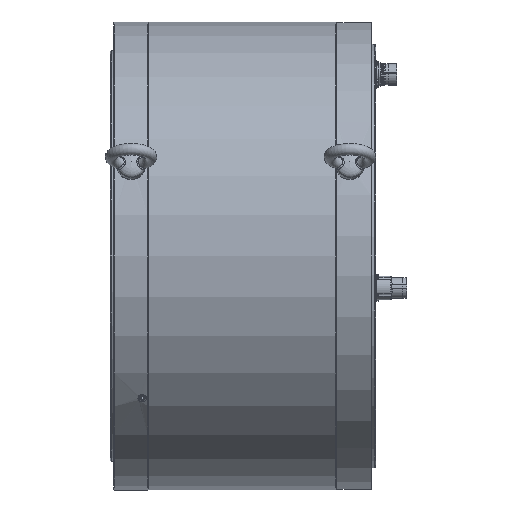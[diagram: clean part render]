
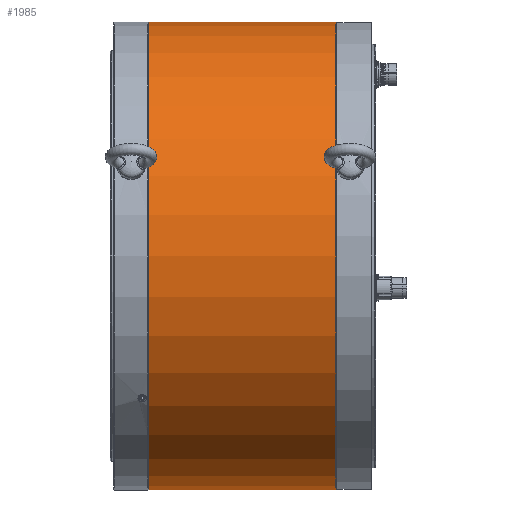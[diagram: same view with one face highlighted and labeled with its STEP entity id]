
A CAD part, front view. The second image highlights one B-rep face of the part: STEP entity #1985.
In plain terms, the highlighted cylindrical face has radius 245 mm (diameter 490 mm), a full revolution.
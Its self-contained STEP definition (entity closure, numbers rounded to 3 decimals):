
#1985 = ADVANCED_FACE( '', ( #4222, #4223 ), #4224, .T. );
#4222 = FACE_OUTER_BOUND( '', #7408, .T. );
#4223 = FACE_OUTER_BOUND( '', #7409, .T. );
#4224 = CYLINDRICAL_SURFACE( '', #7410, 245. );
#7408 = EDGE_LOOP( '', ( #11514 ) );
#7409 = EDGE_LOOP( '', ( #11515 ) );
#7410 = AXIS2_PLACEMENT_3D( '', #11516, #11517, #11518 );
#11514 = ORIENTED_EDGE( '', *, *, #14332, .T. );
#11515 = ORIENTED_EDGE( '', *, *, #13935, .T. );
#11516 = CARTESIAN_POINT( '', ( -60., 0., 0. ) );
#11517 = DIRECTION( '', ( 1., 0., 0. ) );
#11518 = DIRECTION( '', ( 0., 0., 1. ) );
#13935 = EDGE_CURVE( '', #16641, #16641, #16642, .F. );
#14332 = EDGE_CURVE( '', #17255, #17255, #17256, .F. );
#16641 = VERTEX_POINT( '', #19309 );
#16642 = CIRCLE( '', #19310, 245. );
#17255 = VERTEX_POINT( '', #20379 );
#17256 = CIRCLE( '', #20380, 245. );
#19309 = CARTESIAN_POINT( '', ( 196.5, 0., -245. ) );
#19310 = AXIS2_PLACEMENT_3D( '', #23380, #23381, #23382 );
#20379 = CARTESIAN_POINT( '', ( 0.5, 0., 245. ) );
#20380 = AXIS2_PLACEMENT_3D( '', #24050, #24051, #24052 );
#23380 = CARTESIAN_POINT( '', ( 196.5, 0., 0. ) );
#23381 = DIRECTION( '', ( 1., 0., 0. ) );
#23382 = DIRECTION( '', ( 0., 0., -1. ) );
#24050 = CARTESIAN_POINT( '', ( 0.5, 0., 0. ) );
#24051 = DIRECTION( '', ( -1., 0., 0. ) );
#24052 = DIRECTION( '', ( 0., 0., 1. ) );
